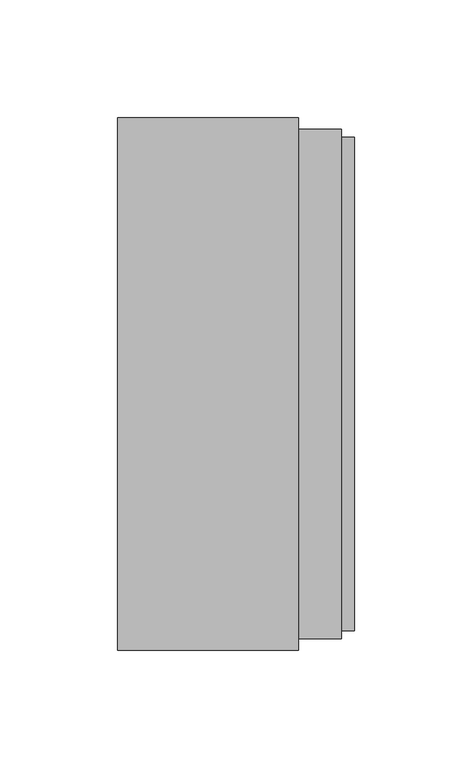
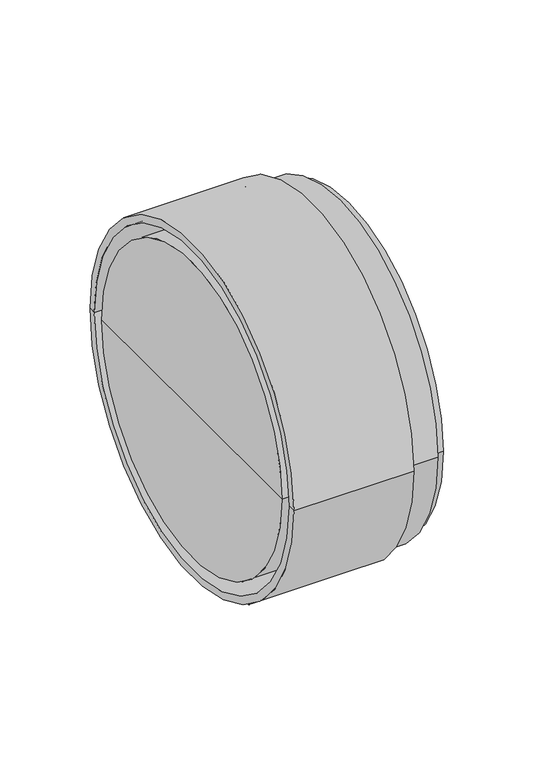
"""IFC4 building model written with IfcOpenShell, lengths in millimetres: pipe fitting geometry, pf_KGUSM : pf_KGUSM."""

from ifc_helpers import new_model, si_unit, frame, origin, place, context, project, spatial, polyline, circle_curve, source, transform, mapped, element, save
from ifc_brep_helpers import plane_surface, cylinder_surface, revolved_surface, advanced_brep


def pipe_fitting_ffc2082e(model_context):
    return source(origin(), model_context, "Body", "AdvancedBrep", [
        advanced_brep(
        [(-1.75, 0.0, 0.0), (-1.75, 100.0, 0.0), (-1.75, -100.0, 0.0), (98.95, -104.9, 0.0), (98.95, 104.9, 0.0), (98.95, 100.0, 0.0), (98.95, -100.0, 0.0), (93.55, -104.9, 0.0), (93.55, 104.9, 0.0), (93.55, -108.3, 0.0), (93.55, 108.3, 0.0), (75.25, -108.3, 0.0), (75.25, 108.3, 0.0), (64.95, -100.0, 0.0), (64.95, 100.0, 0.0), (64.95, 0.0, 0.0), (75.25, -113.2, 0.0), (75.25, 113.2, 0.0), (-1.75, -113.2, 0.0), (-1.75, 113.2, 0.0), (-1.75, -108.3, 0.0), (-1.75, 108.3, 0.0), (68.0131579, -108.3, 0.0), (68.0131579, 108.3, 0.0), (68.0131579, -104.9, 0.0), (68.0131579, 104.9, 0.0), (64.95, -104.9, 0.0), (64.95, 104.9, 0.0), (56.45, -100.0, 0.0), (56.45, 100.0, 0.0)],
        [
            (0, 1),
            (1, 2, circle_curve(frame((-1.75, 0.0, 0.0), z_axis=(-1.0, 0.0, 0.0), x_axis=(0.0, 1.0, 0.0)), 100.0)),
            (2, 0),
            (2, 1, circle_curve(frame((-1.75, 0.0, 0.0), z_axis=(-1.0, 0.0, 0.0), x_axis=(0.0, 1.0, 0.0)), 100.0)),
            (3, 4, circle_curve(frame((98.95, 0.0, 0.0), z_axis=(1.0, 0.0, 0.0), x_axis=(0.0, 1.0, 0.0)), 104.9)),
            (4, 5),
            (5, 6, circle_curve(frame((98.95, 0.0, 0.0), z_axis=(-1.0, 0.0, 0.0), x_axis=(0.0, 1.0, 0.0)), 100.0)),
            (6, 3),
            (4, 3, circle_curve(frame((98.95, 0.0, 0.0), z_axis=(1.0, 0.0, 0.0), x_axis=(0.0, 1.0, 0.0)), 104.9)),
            (6, 5, circle_curve(frame((98.95, 0.0, 0.0), z_axis=(-1.0, 0.0, 0.0), x_axis=(0.0, 1.0, 0.0)), 100.0)),
            (7, 8, circle_curve(frame((93.55, 0.0, 0.0), z_axis=(1.0, 0.0, 0.0), x_axis=(0.0, 1.0, 0.0)), 104.9)),
            (8, 4),
            (3, 7),
            (8, 7, circle_curve(frame((93.55, 0.0, 0.0), z_axis=(1.0, 0.0, 0.0), x_axis=(0.0, 1.0, 0.0)), 104.9)),
            (9, 10, circle_curve(frame((93.55, 0.0, 0.0), z_axis=(1.0, 0.0, 0.0), x_axis=(0.0, 1.0, 0.0)), 108.3)),
            (10, 8),
            (7, 9),
            (10, 9, circle_curve(frame((93.55, 0.0, 0.0), z_axis=(1.0, 0.0, 0.0), x_axis=(0.0, 1.0, 0.0)), 108.3)),
            (11, 12, circle_curve(frame((75.25, 0.0, 0.0), z_axis=(1.0, 0.0, 0.0), x_axis=(0.0, 1.0, 0.0)), 108.3)),
            (12, 10),
            (9, 11),
            (12, 11, circle_curve(frame((75.25, 0.0, 0.0), z_axis=(1.0, 0.0, 0.0), x_axis=(0.0, 1.0, 0.0)), 108.3)),
            (13, 14, circle_curve(frame((64.95, 0.0, 0.0), z_axis=(1.0, 0.0, 0.0), x_axis=(0.0, 1.0, 0.0)), 100.0)),
            (14, 15),
            (15, 13),
            (14, 13, circle_curve(frame((64.95, 0.0, 0.0), z_axis=(1.0, 0.0, 0.0), x_axis=(0.0, 1.0, 0.0)), 100.0)),
            (5, 14),
            (13, 6),
            (16, 17, circle_curve(frame((75.25, 0.0, 0.0), z_axis=(1.0, 0.0, 0.0), x_axis=(0.0, 1.0, 0.0)), 113.2)),
            (17, 12),
            (11, 16),
            (17, 16, circle_curve(frame((75.25, 0.0, 0.0), z_axis=(1.0, 0.0, 0.0), x_axis=(0.0, 1.0, 0.0)), 113.2)),
            (18, 19, circle_curve(frame((-1.75, 0.0, 0.0), z_axis=(1.0, 0.0, 0.0), x_axis=(0.0, 1.0, 0.0)), 113.2)),
            (19, 17),
            (16, 18),
            (19, 18, circle_curve(frame((-1.75, 0.0, 0.0), z_axis=(1.0, 0.0, 0.0), x_axis=(0.0, 1.0, 0.0)), 113.2)),
            (20, 21, circle_curve(frame((-1.75, 0.0, 0.0), z_axis=(1.0, 0.0, 0.0), x_axis=(0.0, 1.0, 0.0)), 108.3)),
            (21, 19),
            (18, 20),
            (21, 20, circle_curve(frame((-1.75, 0.0, 0.0), z_axis=(1.0, 0.0, 0.0), x_axis=(0.0, 1.0, 0.0)), 108.3)),
            (22, 23, circle_curve(frame((68.0131579, 0.0, 0.0), z_axis=(1.0, 0.0, 0.0), x_axis=(0.0, 1.0, 0.0)), 108.3)),
            (23, 21),
            (20, 22),
            (23, 22, circle_curve(frame((68.0131579, 0.0, 0.0), z_axis=(1.0, 0.0, 0.0), x_axis=(0.0, 1.0, 0.0)), 108.3)),
            (24, 25, circle_curve(frame((68.0131579, 0.0, 0.0), z_axis=(1.0, 0.0, 0.0), x_axis=(0.0, 1.0, 0.0)), 104.9)),
            (25, 23),
            (22, 24),
            (25, 24, circle_curve(frame((68.0131579, 0.0, 0.0), z_axis=(1.0, 0.0, 0.0), x_axis=(0.0, 1.0, 0.0)), 104.9)),
            (26, 27, circle_curve(frame((64.95, 0.0, 0.0), z_axis=(1.0, 0.0, 0.0), x_axis=(0.0, 1.0, 0.0)), 104.9)),
            (27, 25),
            (24, 26),
            (27, 26, circle_curve(frame((64.95, 0.0, 0.0), z_axis=(1.0, 0.0, 0.0), x_axis=(0.0, 1.0, 0.0)), 104.9)),
            (28, 29, circle_curve(frame((56.45, 0.0, 0.0), z_axis=(1.0, 0.0, 0.0), x_axis=(0.0, 1.0, 0.0)), 100.0)),
            (29, 27),
            (26, 28),
            (29, 28, circle_curve(frame((56.45, 0.0, 0.0), z_axis=(1.0, 0.0, 0.0), x_axis=(0.0, 1.0, 0.0)), 100.0)),
            (1, 29),
            (28, 2),
        ],
        [
            plane_surface(frame((-1.75, 0.0, 0.0), z_axis=(-1.0, 0.0, 0.0), x_axis=(0.0, 1.0, 0.0))),
            plane_surface(frame((98.95, 0.0, 0.0), z_axis=(1.0, 0.0, 0.0), x_axis=(0.0, 1.0, 0.0))),
            cylinder_surface(frame((-1.75, 0.0, 0.0), z_axis=(-1.0, 0.0, 0.0), x_axis=(0.0, 1.0, 0.0)), 104.9),
            plane_surface(frame((93.55, 0.0, 0.0), z_axis=(1.0, 0.0, 0.0), x_axis=(0.0, 1.0, 0.0))),
            cylinder_surface(frame((-1.75, 0.0, 0.0), z_axis=(-1.0, 0.0, 0.0), x_axis=(0.0, 1.0, 0.0)), 108.3),
            plane_surface(frame((64.95, 0.0, 0.0), z_axis=(1.0, 0.0, 0.0), x_axis=(0.0, 1.0, 0.0))),
            revolved_surface(polyline([(64.95, 100.0, 0.0), (98.95, 100.0, 0.0)]), (-1.75, 0.0, 0.0), (-1.0, 0.0, 0.0)),
            plane_surface(frame((75.25, 0.0, 0.0), z_axis=(1.0, 0.0, 0.0), x_axis=(0.0, 1.0, 0.0))),
            cylinder_surface(frame((-1.75, 0.0, 0.0), z_axis=(-1.0, 0.0, 0.0), x_axis=(0.0, 1.0, 0.0)), 113.2),
            revolved_surface(polyline([(-1.75, 108.3, 0.0), (68.0131579, 108.3, 0.0)]), (-1.75, 0.0, 0.0), (-1.0, 0.0, 0.0)),
            plane_surface(frame((68.0131579, 0.0, 0.0), z_axis=(-1.0, 0.0, 0.0), x_axis=(0.0, 1.0, 0.0))),
            revolved_surface(polyline([(64.95, 104.9, 0.0), (56.45, 100.0, 0.0)]), (-1.75, 0.0, 0.0), (-1.0, 0.0, 0.0)),
            cylinder_surface(frame((-1.75, 0.0, 0.0), z_axis=(-1.0, 0.0, 0.0), x_axis=(0.0, 1.0, 0.0)), 100.0),
        ],
        [
            (0, [[1, 2, 3]]),
            (0, [[-3, 4, -1]]),
            (1, [[5, 6, 7, 8]]),
            (1, [[9, -8, 10, -6]]),
            (2, [[11, 12, -5, 13]]),
            (2, [[14, -13, -9, -12]]),
            (3, [[15, 16, -11, 17]]),
            (3, [[18, -17, -14, -16]]),
            (4, [[19, 20, -15, 21]]),
            (4, [[22, -21, -18, -20]]),
            (5, [[23, 24, 25]]),
            (5, [[26, -25, -24]]),
            (6, [[-7, 27, -23, 28]]),
            (6, [[-10, -28, -26, -27]]),
            (7, [[29, 30, -19, 31]]),
            (7, [[32, -31, -22, -30]]),
            (8, [[33, 34, -29, 35]]),
            (8, [[36, -35, -32, -34]]),
            (0, [[37, 38, -33, 39]]),
            (0, [[40, -39, -36, -38]]),
            (9, [[41, 42, -37, 43]]),
            (9, [[44, -43, -40, -42]]),
            (10, [[45, 46, -41, 47]]),
            (10, [[48, -47, -44, -46]]),
            (2, [[49, 50, -45, 51]]),
            (2, [[52, -51, -48, -50]]),
            (11, [[53, 54, -49, 55]]),
            (11, [[56, -55, -52, -54]]),
            (12, [[-2, 57, -53, 58]]),
            (12, [[-4, -58, -56, -57]]),
        ],
    ),
    ])


if __name__ == "__main__":
    model = new_model("IFC4")
    model_context = context("Model", 3, world=origin())
    ifc_project = project(units=[si_unit("LENGTHUNIT", "METRE", prefix="MILLI")], contexts=[model_context])
    site = spatial("IfcSite", under=ifc_project)
    building = spatial("IfcBuilding", under=site)
    placement = place(None, origin())
    pipe_fitting_shape = pipe_fitting_ffc2082e(model_context)
    element("IfcPipeFitting", 1, ObjectType="pf_KGUSM : pf_KGUSM", at=placement, inside=building, context=model_context, shape_type="MappedRepresentation", body=[
        mapped(pipe_fitting_shape, transform((0.0, 0.0, 0.0), x_axis=(1.0, 0.0, 0.0), y_axis=(0.0, 1.0, 0.0), z_axis=(0.0, 0.0, 1.0))),
    ])
    save(model, "model.ifc")
